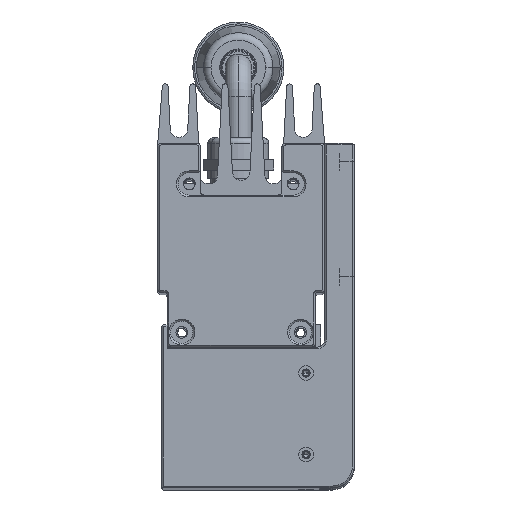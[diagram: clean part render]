
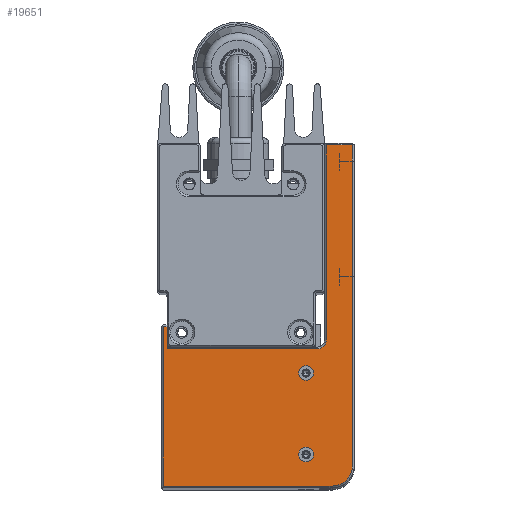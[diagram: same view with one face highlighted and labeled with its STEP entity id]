
A CAD part, top view. The second image highlights one B-rep face of the part: STEP entity #19651.
In plain terms, the highlighted planar face has unit normal (0, 0, 1).
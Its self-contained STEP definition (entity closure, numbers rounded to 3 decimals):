
#4917=DIRECTION('',(0.,1.,0.));
#4918=VECTOR('',#4917,6.);
#4919=CARTESIAN_POINT('',(2.735,-37.813,160.));
#4920=LINE('',#4919,#4918);
#5809=CARTESIAN_POINT('',(40.235,-66.313,160.));
#5810=DIRECTION('',(0.,0.,1.));
#5811=DIRECTION('',(-1.,0.,0.));
#5812=AXIS2_PLACEMENT_3D('',#5809,#5810,#5811);
#5814=CARTESIAN_POINT('',(40.235,-66.313,160.));
#5815=DIRECTION('',(0.,0.,1.));
#5816=DIRECTION('',(1.,0.,0.));
#5817=AXIS2_PLACEMENT_3D('',#5814,#5815,#5816);
#5819=CARTESIAN_POINT('',(40.235,-44.313,160.));
#5820=DIRECTION('',(0.,0.,1.));
#5821=DIRECTION('',(-1.,0.,0.));
#5822=AXIS2_PLACEMENT_3D('',#5819,#5820,#5821);
#5824=CARTESIAN_POINT('',(40.235,-44.313,160.));
#5825=DIRECTION('',(0.,0.,1.));
#5826=DIRECTION('',(1.,0.,0.));
#5827=AXIS2_PLACEMENT_3D('',#5824,#5825,#5826);
#5829=DIRECTION('',(0.,-1.,0.));
#5830=VECTOR('',#5829,43.);
#5831=CARTESIAN_POINT('',(1.735,-31.813,160.));
#5832=LINE('',#5831,#5830);
#5833=DIRECTION('',(1.,0.,0.));
#5834=VECTOR('',#5833,1.);
#5835=CARTESIAN_POINT('',(1.735,-31.813,160.));
#5836=LINE('',#5835,#5834);
#5837=CARTESIAN_POINT('',(43.235,-35.313,160.));
#5838=DIRECTION('',(0.,0.,1.));
#5839=DIRECTION('',(0.,-1.,0.));
#5840=AXIS2_PLACEMENT_3D('',#5837,#5838,#5839);
#5842=DIRECTION('',(0.,1.,0.));
#5843=VECTOR('',#5842,52.5);
#5844=CARTESIAN_POINT('',(45.735,-35.313,160.));
#5845=LINE('',#5844,#5843);
#5846=DIRECTION('',(-1.,0.,0.));
#5847=VECTOR('',#5846,7.);
#5848=CARTESIAN_POINT('',(52.735,17.187,160.));
#5849=LINE('',#5848,#5847);
#5850=DIRECTION('',(0.,1.,0.));
#5851=VECTOR('',#5850,86.5);
#5852=CARTESIAN_POINT('',(52.735,-69.313,160.));
#5853=LINE('',#5852,#5851);
#5854=CARTESIAN_POINT('',(47.235,-69.313,160.));
#5855=DIRECTION('',(0.,0.,1.));
#5856=DIRECTION('',(0.,-1.,0.));
#5857=AXIS2_PLACEMENT_3D('',#5854,#5855,#5856);
#6293=DIRECTION('',(-1.,0.,0.));
#6294=VECTOR('',#6293,40.5);
#6295=CARTESIAN_POINT('',(43.235,-37.813,160.));
#6296=LINE('',#6295,#6294);
#7871=DIRECTION('',(1.,0.,0.));
#7872=VECTOR('',#7871,45.5);
#7873=CARTESIAN_POINT('',(1.735,-74.813,160.));
#7874=LINE('',#7873,#7872);
#9812=CARTESIAN_POINT('',(47.235,-74.813,160.));
#9813=CARTESIAN_POINT('',(52.735,-69.313,160.));
#9814=VERTEX_POINT('',#9812);
#9815=VERTEX_POINT('',#9813);
#9820=CARTESIAN_POINT('',(52.735,17.187,160.));
#9821=VERTEX_POINT('',#9820);
#9830=CARTESIAN_POINT('',(45.735,17.187,160.));
#9831=VERTEX_POINT('',#9830);
#9834=CARTESIAN_POINT('',(43.235,-37.813,160.));
#9835=CARTESIAN_POINT('',(45.735,-35.313,160.));
#9836=VERTEX_POINT('',#9834);
#9837=VERTEX_POINT('',#9835);
#9878=CARTESIAN_POINT('',(38.235,-66.313,160.));
#9879=CARTESIAN_POINT('',(42.235,-66.313,160.));
#9880=VERTEX_POINT('',#9878);
#9881=VERTEX_POINT('',#9879);
#9882=CARTESIAN_POINT('',(38.235,-44.313,160.));
#9883=CARTESIAN_POINT('',(42.235,-44.313,160.));
#9884=VERTEX_POINT('',#9882);
#9885=VERTEX_POINT('',#9883);
#11470=CARTESIAN_POINT('',(2.735,-31.813,160.));
#11472=VERTEX_POINT('',#11470);
#11473=CARTESIAN_POINT('',(1.735,-31.813,160.));
#11474=VERTEX_POINT('',#11473);
#11475=CARTESIAN_POINT('',(1.735,-74.813,160.));
#11476=VERTEX_POINT('',#11475);
#11549=CARTESIAN_POINT('',(2.735,-37.813,160.));
#11550=VERTEX_POINT('',#11549);
#19616=CARTESIAN_POINT('',(45.235,17.687,160.));
#19617=DIRECTION('',(0.,0.,1.));
#19618=DIRECTION('',(0.,-1.,0.));
#19619=AXIS2_PLACEMENT_3D('',#19616,#19617,#19618);
#19620=PLANE('',#19619);
#19622=ORIENTED_EDGE('',*,*,#19621,.F.);
#19623=ORIENTED_EDGE('',*,*,#18261,.F.);
#19624=ORIENTED_EDGE('',*,*,#18280,.T.);
#19625=ORIENTED_EDGE('',*,*,#18314,.F.);
#19627=ORIENTED_EDGE('',*,*,#19626,.F.);
#19629=ORIENTED_EDGE('',*,*,#19628,.T.);
#19631=ORIENTED_EDGE('',*,*,#19630,.T.);
#19633=ORIENTED_EDGE('',*,*,#19632,.F.);
#19635=ORIENTED_EDGE('',*,*,#19634,.F.);
#19636=ORIENTED_EDGE('',*,*,#19606,.F.);
#19637=EDGE_LOOP('',(#19622,#19623,#19624,#19625,#19627,#19629,#19631,#19633,
#19635,#19636));
#19638=FACE_OUTER_BOUND('',#19637,.F.);
#19640=ORIENTED_EDGE('',*,*,#19639,.T.);
#19642=ORIENTED_EDGE('',*,*,#19641,.T.);
#19643=EDGE_LOOP('',(#19640,#19642));
#19644=FACE_BOUND('',#19643,.F.);
#19646=ORIENTED_EDGE('',*,*,#19645,.T.);
#19648=ORIENTED_EDGE('',*,*,#19647,.T.);
#19649=EDGE_LOOP('',(#19646,#19648));
#19650=FACE_BOUND('',#19649,.F.);
#5813=CIRCLE('',#5812,2.);
#5818=CIRCLE('',#5817,2.);
#5823=CIRCLE('',#5822,2.);
#5828=CIRCLE('',#5827,2.);
#5841=CIRCLE('',#5840,2.5);
#5858=CIRCLE('',#5857,5.5);
#18261=EDGE_CURVE('',#11474,#11476,#5832,.T.);
#18280=EDGE_CURVE('',#11474,#11472,#5836,.T.);
#18314=EDGE_CURVE('',#11550,#11472,#4920,.T.);
#19606=EDGE_CURVE('',#9814,#9815,#5858,.T.);
#19621=EDGE_CURVE('',#11476,#9814,#7874,.T.);
#19626=EDGE_CURVE('',#9836,#11550,#6296,.T.);
#19628=EDGE_CURVE('',#9836,#9837,#5841,.T.);
#19630=EDGE_CURVE('',#9837,#9831,#5845,.T.);
#19632=EDGE_CURVE('',#9821,#9831,#5849,.T.);
#19634=EDGE_CURVE('',#9815,#9821,#5853,.T.);
#19639=EDGE_CURVE('',#9884,#9885,#5823,.T.);
#19641=EDGE_CURVE('',#9885,#9884,#5828,.T.);
#19645=EDGE_CURVE('',#9880,#9881,#5813,.T.);
#19647=EDGE_CURVE('',#9881,#9880,#5818,.T.);
#19651=ADVANCED_FACE('',(#19638,#19644,#19650),#19620,.T.);
